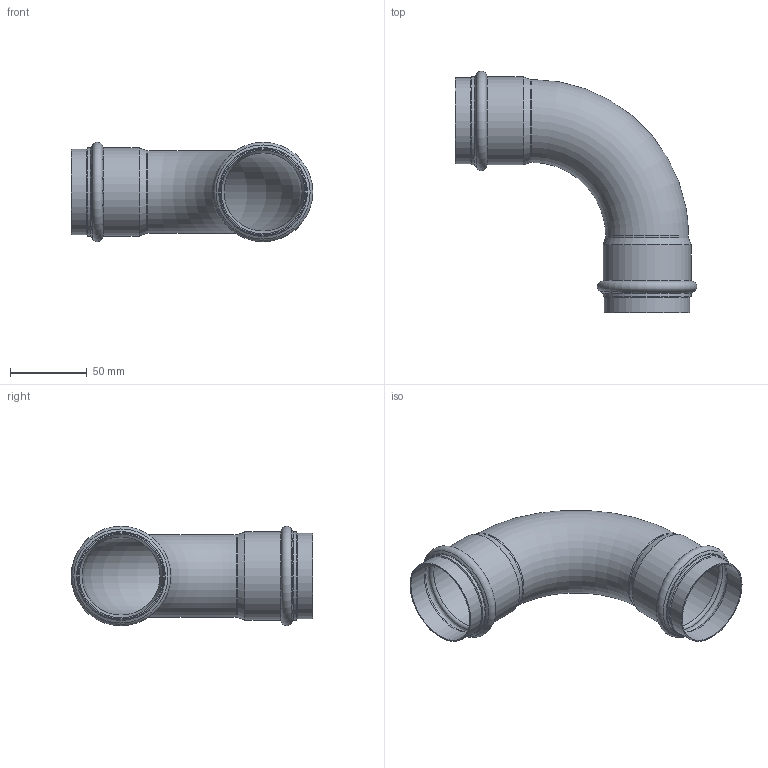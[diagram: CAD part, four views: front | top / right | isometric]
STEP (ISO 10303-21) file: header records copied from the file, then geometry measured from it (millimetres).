
FILE_DESCRIPTION((''),'2;1');
FILE_NAME('G:\Technics\CAD\Bauteile\054\69002A54(1).stp','2008-03-05T15:23:45',('herberg'),(''),'Autodesk Inventor 2008','Autodesk Inventor 2008','');
FILE_SCHEMA(('AUTOMOTIVE_DESIGN { 1 0 10303 214 1 1 1 1 }'));
Length unit declared in the file: millimetre
Products named in the file (1): 69002A54(1)
Bounding box: 157.4 x 157.4 x 64.8 mm (x, y, z)
Volume: 55396 mm3; surface area: 77585.9 mm2
Topology: 1 solids, 1 shells, 40 faces, 80 edges, 42 vertices
Faces by surface type: cylinder 14, cone 10, torus 8, bspline 6, plane 2
Full cylindrical faces by diameter (mm): 51 x2, 54 x2, 54.35 x4, 55.95 x2, 57.35 x4
Entity records: 1146 total; most frequent: CARTESIAN_POINT 457, DIRECTION 150, ORIENTED_EDGE 80, EDGE_LOOP 80, AXIS2_PLACEMENT_3D 75, VERTEX_POINT 40, CIRCLE 40, EDGE_CURVE 40
